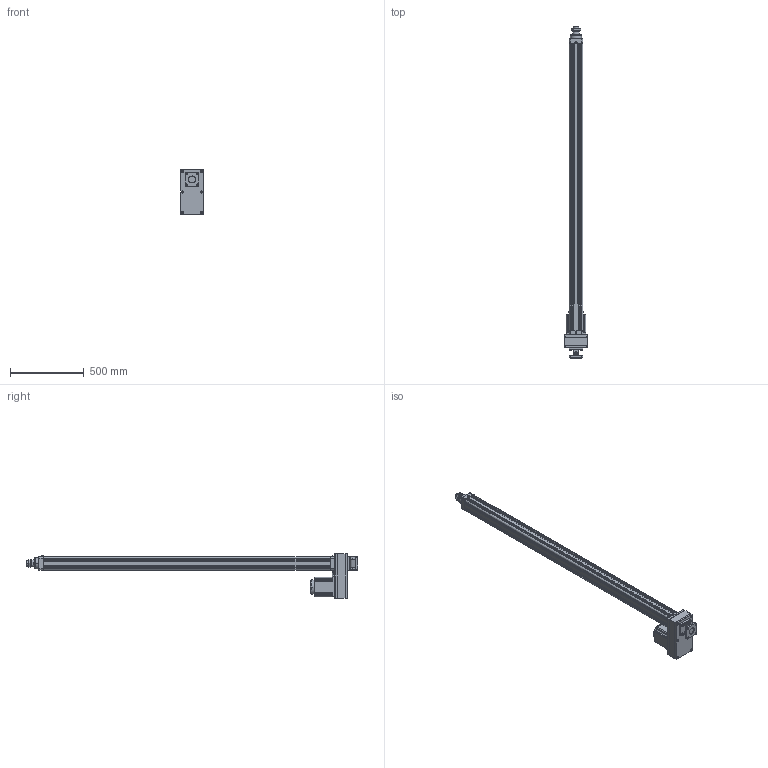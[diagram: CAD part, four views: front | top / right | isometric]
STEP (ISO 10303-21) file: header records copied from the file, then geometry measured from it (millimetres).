
FILE_DESCRIPTION((''),'2;1');
FILE_NAME('HE80-D-P_ASM','2020-05-14T',('ASUS20200'),(''),'CREO PARAMETRIC BY PTC INC, 2014190','CREO PARAMETRIC BY PTC INC, 2014190','');
FILE_SCHEMA(('CONFIG_CONTROL_DESIGN'));
Length unit declared in the file: millimetre
Products named in the file (30): HE80-D-P-001-X1; HE80-D-P-002-X1; HE80-D-P-003-X1; 30304J; YZ-M6X1; SLM-01; JDB506030; HE80-100-D-P-X1_ASM; HE80-P-010-X1-130N; 130ST-M10010; M10X25; HE80-P-009-X1-130N; HE80-P-013-X1-130N; TD-8; M8X35; M8X75; LM-M8-7-5; M10X1-25-40; LM-M10-30; LM-M10; HE80-D-P-005-X1; HE80-D-P-004-X1; HE80-D-P-008-X1; LGLM-M10-25; F-SE80CB; F-SE80CB-XD; F-SE80CB_ASM; F-SE80CA; M10X30; HE80-D-P_ASM
Assembly tree (53 placements, depth 3):
  HE80-D-P_ASM
    HE80-100-D-P-X1_ASM
      HE80-D-P-001-X1
      HE80-D-P-002-X1
      HE80-D-P-003-X1
      30304J  x2
      YZ-M6X1
      SLM-01
      JDB506030
    HE80-P-010-X1-130N
    130ST-M10010
    M10X25  x4
    HE80-P-009-X1-130N
    HE80-P-013-X1-130N
    TD-8  x4
    M8X35  x4
    M8X75  x6
    LM-M8-7-5  x4
    M10X1-25-40
    LM-M10-30
    LM-M10
    HE80-D-P-005-X1
    HE80-D-P-004-X1
    HE80-D-P-008-X1
    LGLM-M10-25  x4
    F-SE80CB_ASM
      F-SE80CB
      F-SE80CB-XD
    F-SE80CA
    M10X30  x4
Bounding box: 150 x 2246 x 300 mm (x, y, z)
Volume: 9740475.5 mm3; surface area: 2901348.9 mm2
Topology: 51 solids, 85 shells, 2231 faces, 5117 edges, 3113 vertices
Faces by surface type: plane 795, cone 668, cylinder 616, torus 122, sphere 26, bspline 4
Entity records: 49462 total; most frequent: CARTESIAN_POINT 9470, DIRECTION 8908, ORIENTED_EDGE 7604, EDGE_CURVE 3861, AXIS2_PLACEMENT_3D 3458, VERTEX_POINT 2348, VECTOR 1992, LINE 1992
